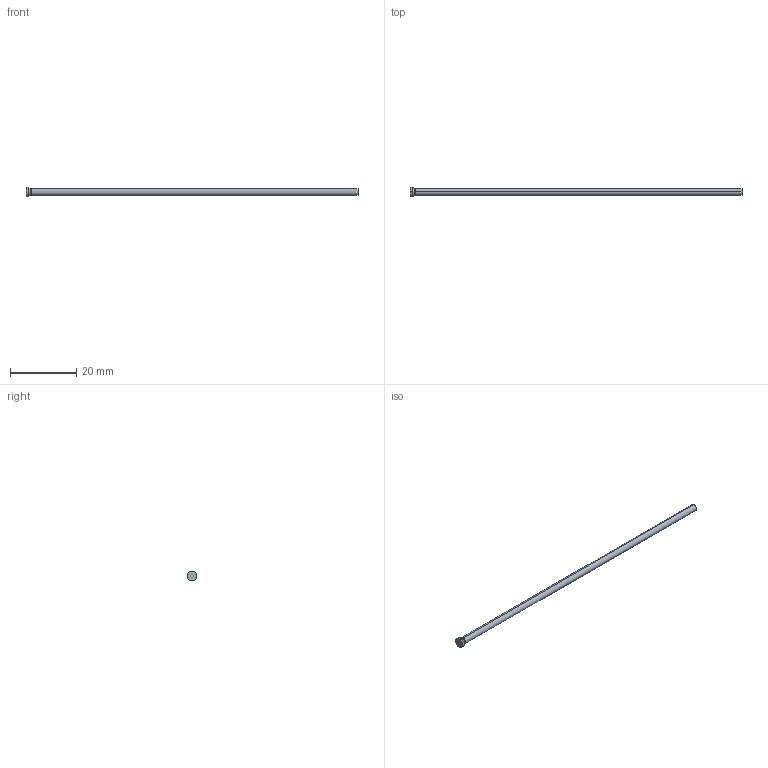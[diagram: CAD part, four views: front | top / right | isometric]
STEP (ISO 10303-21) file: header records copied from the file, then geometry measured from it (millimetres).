
FILE_DESCRIPTION (( 'STEP AP214' ), '1' );
FILE_NAME ('D-2,1x100.STEP', '2020-06-08T09:50:19', ( 'August' ), ( '' ), 'SwSTEP 2.0', 'SolidWorks 2018', '' );
FILE_SCHEMA (( 'AUTOMOTIVE_DESIGN' ));
Length unit declared in the file: millimetre
Products named in the file (1): D-2,1x100
Bounding box: 100 x 3 x 3 mm (x, y, z)
Volume: 350.1 mm3; surface area: 674.2 mm2
Topology: 1 solids, 1 shells, 10 faces, 18 edges, 10 vertices
Faces by surface type: cylinder 4, torus 2, cone 2, plane 2
Entity records: 280 total; most frequent: DIRECTION 52, CARTESIAN_POINT 39, ORIENTED_EDGE 36, AXIS2_PLACEMENT_3D 23, EDGE_CURVE 18, CIRCLE 12, EDGE_LOOP 10, ADVANCED_FACE 10
